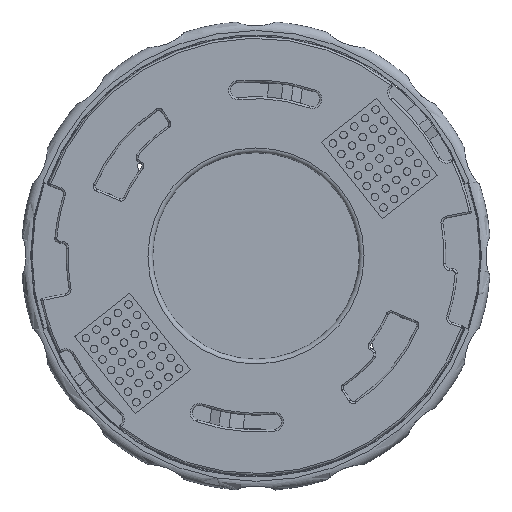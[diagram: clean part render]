
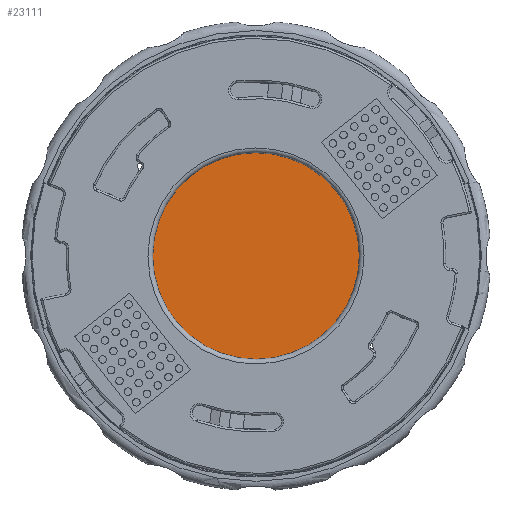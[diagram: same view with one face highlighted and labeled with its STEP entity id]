
A CAD part, top view. The second image highlights one B-rep face of the part: STEP entity #23111.
In plain terms, the highlighted planar face has unit normal (0, 0, 1).
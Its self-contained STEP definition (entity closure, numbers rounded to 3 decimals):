
#1453=CIRCLE('',#25041,12.75);
#5989=ORIENTED_EDGE('',*,*,#10597,.F.);
#10597=EDGE_CURVE('',#13279,#13279,#1453,.T.);
#13279=VERTEX_POINT('',#38508);
#19279=EDGE_LOOP('',(#5989));
#20879=FACE_BOUND('',#19279,.T.);
#21943=PLANE('',#25040);
#23111=ADVANCED_FACE('',(#20879),#21943,.T.);
#25040=AXIS2_PLACEMENT_3D('',#38506,#30079,#30080);
#25041=AXIS2_PLACEMENT_3D('',#38507,#30081,#30082);
#30079=DIRECTION('',(0.,0.,1.));
#30080=DIRECTION('',(1.,0.,0.));
#30081=DIRECTION('',(0.,0.,-1.));
#30082=DIRECTION('',(-1.,0.,0.));
#38506=CARTESIAN_POINT('',(0.,0.,5.2));
#38507=CARTESIAN_POINT('',(0.,0.,5.2));
#38508=CARTESIAN_POINT('',(-12.75,0.,5.2));
